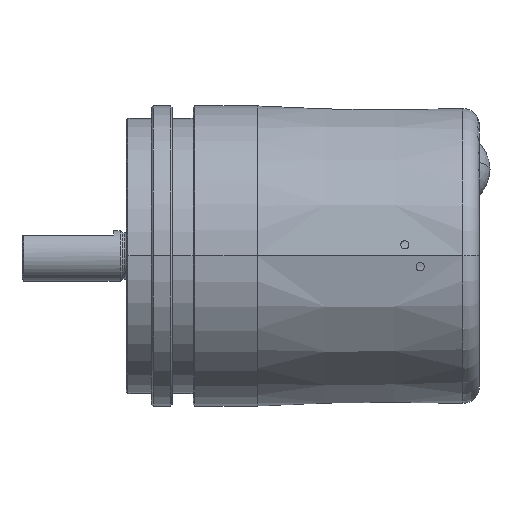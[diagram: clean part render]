
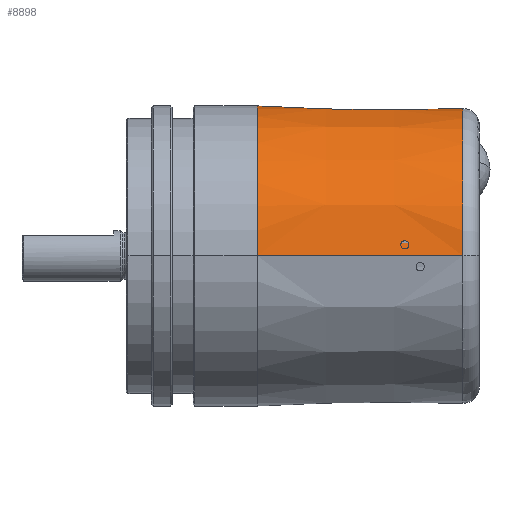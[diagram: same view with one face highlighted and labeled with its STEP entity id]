
A CAD part, top view. The second image highlights one B-rep face of the part: STEP entity #8898.
In plain terms, the highlighted conical face has half-angle 0.75 degrees and reference radius 18 mm.
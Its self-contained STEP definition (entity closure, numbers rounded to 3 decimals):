
#16 = EDGE_CURVE ( 'NONE', #23, #19, #6845, .T. ) ;
#19 = VERTEX_POINT ( 'NONE', #6874 ) ;
#23 = VERTEX_POINT ( 'NONE', #6872 ) ;
#4245 = VERTEX_POINT ( 'NONE', #7459 ) ;
#4248 = ORIENTED_EDGE ( 'NONE', *, *, #4253, .T. ) ;
#4250 = EDGE_CURVE ( 'NONE', #4245, #4255, #7492, .T. ) ;
#4251 = VERTEX_POINT ( 'NONE', #7493 ) ;
#4252 = ORIENTED_EDGE ( 'NONE', *, *, #4250, .F. ) ;
#4253 = EDGE_CURVE ( 'NONE', #4671, #4251, #7487, .T. ) ;
#4254 = ORIENTED_EDGE ( 'NONE', *, *, #4731, .T. ) ;
#4255 = VERTEX_POINT ( 'NONE', #7485 ) ;
#4256 = ORIENTED_EDGE ( 'NONE', *, *, #4258, .T. ) ;
#4257 = ORIENTED_EDGE ( 'NONE', *, *, #4263, .T. ) ;
#4258 = EDGE_CURVE ( 'NONE', #12710, #4678, #7480, .T. ) ;
#4263 = EDGE_CURVE ( 'NONE', #19, #4671, #7523, .T. ) ;
#4671 = VERTEX_POINT ( 'NONE', #8904 ) ;
#4673 = EDGE_CURVE ( 'NONE', #4245, #7365, #8899, .T. ) ;
#4675 = EDGE_CURVE ( 'NONE', #12710, #4676, #8951, .T. ) ;
#4676 = VERTEX_POINT ( 'NONE', #8924 ) ;
#4677 = ORIENTED_EDGE ( 'NONE', *, *, #4675, .F. ) ;
#4678 = VERTEX_POINT ( 'NONE', #8923 ) ;
#4679 = ORIENTED_EDGE ( 'NONE', *, *, #4673, .T. ) ;
#4731 = EDGE_CURVE ( 'NONE', #4251, #4676, #9076, .T. ) ;
#4732 = ORIENTED_EDGE ( 'NONE', *, *, #4736, .T. ) ;
#4733 = ORIENTED_EDGE ( 'NONE', *, *, #16, .T. ) ;
#4736 = EDGE_CURVE ( 'NONE', #4678, #4255, #9071, .T. ) ;
#6828 = CARTESIAN_POINT ( 'NONE',  ( 16.892, 1.046, -17.954 ) ) ;
#6829 = CARTESIAN_POINT ( 'NONE',  ( 17.022, 1.035, -17.953 ) ) ;
#6830 = CARTESIAN_POINT ( 'NONE',  ( 17.149, 0.999, -17.953 ) ) ;
#6831 = CARTESIAN_POINT ( 'NONE',  ( 17.381, 0.884, -17.956 ) ) ;
#6832 = CARTESIAN_POINT ( 'NONE',  ( 17.487, 0.804, -17.959 ) ) ;
#6833 = CARTESIAN_POINT ( 'NONE',  ( 17.662, 0.614, -17.964 ) ) ;
#6834 = CARTESIAN_POINT ( 'NONE',  ( 17.732, 0.501, -17.967 ) ) ;
#6835 = CARTESIAN_POINT ( 'NONE',  ( 17.825, 0.26, -17.971 ) ) ;
#6836 = CARTESIAN_POINT ( 'NONE',  ( 17.85, 0.129, -17.972 ) ) ;
#6837 = CARTESIAN_POINT ( 'NONE',  ( 17.85, 0., -17.972 ) ) ;
#6845 = B_SPLINE_CURVE_WITH_KNOTS ( 'NONE', 3,
 ( #6837, #6836, #6835, #6834, #6833, #6832, #6831, #6830, #6829, #6828 ),
 .UNSPECIFIED., .F., .F.,
 ( 4, 2, 2, 2, 4 ),
 ( 0.002, 0.002, 0.002, 0.003, 0.003 ),
 .UNSPECIFIED. ) ;
#6872 = CARTESIAN_POINT ( 'NONE',  ( 17.85, 0., -17.972 ) ) ;
#6874 = CARTESIAN_POINT ( 'NONE',  ( 16.892, 1.046, -17.954 ) ) ;
#6957 = ORIENTED_EDGE ( 'NONE', *, *, #7103, .T. ) ;
#7103 = EDGE_CURVE ( 'NONE', #7479, #23, #18414, .T. ) ;
#7365 = VERTEX_POINT ( 'NONE', #18410 ) ;
#7459 = CARTESIAN_POINT ( 'NONE',  ( 28.3, 9.398, -15.158 ) ) ;
#7476 = DIRECTION ( 'NONE',  ( -1., 0., 0. ) ) ;
#7477 = CARTESIAN_POINT ( 'NONE',  ( 40.326, 0., 0. ) ) ;
#7478 = AXIS2_PLACEMENT_3D ( 'NONE', #7477, #7476, #7524 ) ;
#7479 = VERTEX_POINT ( 'NONE', #18393 ) ;
#7480 = CIRCLE ( 'NONE', #7478, 17.678 ) ;
#7481 = CARTESIAN_POINT ( 'NONE',  ( 15.7, 1.65, -17.924 ) ) ;
#7482 = CARTESIAN_POINT ( 'NONE',  ( 15.882, 1.468, -17.939 ) ) ;
#7483 = CARTESIAN_POINT ( 'NONE',  ( 16.065, 1.285, -17.95 ) ) ;
#7484 = CARTESIAN_POINT ( 'NONE',  ( 16.248, 1.102, -17.959 ) ) ;
#7485 = CARTESIAN_POINT ( 'NONE',  ( 40.3, 9.486, -14.917 ) ) ;
#7487 =( BOUNDED_CURVE ( )  B_SPLINE_CURVE ( 3, ( #7484, #7483, #7482, #7481 ),
 .UNSPECIFIED., .F., .F. ) 
 B_SPLINE_CURVE_WITH_KNOTS ( ( 4, 4 ),
 ( 4.761, 4.791 ),
 .UNSPECIFIED. ) 
 CURVE ( )  GEOMETRIC_REPRESENTATION_ITEM ( )  RATIONAL_B_SPLINE_CURVE ( ( 1., 1., 1., 1. ) ) 
 REPRESENTATION_ITEM ( '' )  );
#7488 = CARTESIAN_POINT ( 'NONE',  ( 40.3, 9.486, -14.917 ) ) ;
#7489 = CARTESIAN_POINT ( 'NONE',  ( 36.3, 9.457, -14.998 ) ) ;
#7490 = CARTESIAN_POINT ( 'NONE',  ( 32.3, 9.427, -15.078 ) ) ;
#7491 = CARTESIAN_POINT ( 'NONE',  ( 28.3, 9.398, -15.158 ) ) ;
#7492 = B_SPLINE_CURVE_WITH_KNOTS ( 'NONE', 3,
 ( #7491, #7490, #7489, #7488 ),
 .UNSPECIFIED., .F., .F.,
 ( 4, 4 ),
 ( 0.002, 0.014 ),
 .UNSPECIFIED. ) ;
#7493 = CARTESIAN_POINT ( 'NONE',  ( 15.7, 1.65, -17.924 ) ) ;
#7519 = CARTESIAN_POINT ( 'NONE',  ( 16.248, 1.102, -17.959 ) ) ;
#7520 = CARTESIAN_POINT ( 'NONE',  ( 16.462, 1.084, -17.957 ) ) ;
#7521 = CARTESIAN_POINT ( 'NONE',  ( 16.677, 1.065, -17.956 ) ) ;
#7522 = CARTESIAN_POINT ( 'NONE',  ( 16.892, 1.046, -17.954 ) ) ;
#7523 =( BOUNDED_CURVE ( )  B_SPLINE_CURVE ( 3, ( #7522, #7521, #7520, #7519 ),
 .UNSPECIFIED., .F., .T. ) 
 B_SPLINE_CURVE_WITH_KNOTS ( ( 4, 4 ),
 ( 4.62, 4.623 ),
 .UNSPECIFIED. ) 
 CURVE ( )  GEOMETRIC_REPRESENTATION_ITEM ( )  RATIONAL_B_SPLINE_CURVE ( ( 1., 1., 1., 1. ) ) 
 REPRESENTATION_ITEM ( '' )  );
#7524 = DIRECTION ( 'NONE',  ( 0., 0., -1. ) ) ;
#8762 = EDGE_CURVE ( 'NONE', #7479, #7365, #18416, .T. ) ;
#8777 = ORIENTED_EDGE ( 'NONE', *, *, #8762, .F. ) ;
#8858 = EDGE_LOOP ( 'NONE', ( #8777, #6957, #4733, #4257, #4248, #4254, #4677, #4256, #4732, #4252, #4679 ) ) ;
#8898 = ADVANCED_FACE ( 'NONE', ( #18464 ), #18491, .T. ) ;
#8899 = B_SPLINE_CURVE_WITH_KNOTS ( 'NONE', 3,
 ( #8949, #8948, #8947, #8946, #8945, #8944, #8943, #8942, #8941, #8940, #8939, #8938 ),
 .UNSPECIFIED., .F., .F.,
 ( 4, 2, 2, 2, 2, 4 ),
 ( 0., 0., 0.001, 0.002, 0.003, 0.004 ),
 .UNSPECIFIED. ) ;
#8904 = CARTESIAN_POINT ( 'NONE',  ( 16.248, 1.102, -17.959 ) ) ;
#8923 = CARTESIAN_POINT ( 'NONE',  ( 40.326, 9.486, -14.917 ) ) ;
#8924 = CARTESIAN_POINT ( 'NONE',  ( 15.7, 0., 18. ) ) ;
#8935 = DIRECTION ( 'NONE',  ( -1., 0., 0.013 ) ) ;
#8936 = VECTOR ( 'NONE', #8935, 1000. ) ;
#8937 = CARTESIAN_POINT ( 'NONE',  ( 15.7, 0., 18. ) ) ;
#8938 = CARTESIAN_POINT ( 'NONE',  ( 26.3, 6.771, -16.528 ) ) ;
#8939 = CARTESIAN_POINT ( 'NONE',  ( 26.3, 7.074, -16.404 ) ) ;
#8940 = CARTESIAN_POINT ( 'NONE',  ( 26.343, 7.37, -16.272 ) ) ;
#8941 = CARTESIAN_POINT ( 'NONE',  ( 26.507, 7.94, -16. ) ) ;
#8942 = CARTESIAN_POINT ( 'NONE',  ( 26.625, 8.207, -15.862 ) ) ;
#8943 = CARTESIAN_POINT ( 'NONE',  ( 26.948, 8.703, -15.59 ) ) ;
#8944 = CARTESIAN_POINT ( 'NONE',  ( 27.15, 8.928, -15.458 ) ) ;
#8945 = CARTESIAN_POINT ( 'NONE',  ( 27.533, 9.191, -15.296 ) ) ;
#8946 = CARTESIAN_POINT ( 'NONE',  ( 27.672, 9.264, -15.25 ) ) ;
#8947 = CARTESIAN_POINT ( 'NONE',  ( 27.977, 9.368, -15.181 ) ) ;
#8948 = CARTESIAN_POINT ( 'NONE',  ( 28.135, 9.397, -15.161 ) ) ;
#8949 = CARTESIAN_POINT ( 'NONE',  ( 28.3, 9.398, -15.158 ) ) ;
#8951 = LINE ( 'NONE', #8937, #8936 ) ;
#9067 = CARTESIAN_POINT ( 'NONE',  ( 40.3, 9.486, -14.917 ) ) ;
#9068 = CARTESIAN_POINT ( 'NONE',  ( 40.309, 9.486, -14.917 ) ) ;
#9069 = CARTESIAN_POINT ( 'NONE',  ( 40.317, 9.486, -14.917 ) ) ;
#9070 = CARTESIAN_POINT ( 'NONE',  ( 40.326, 9.486, -14.917 ) ) ;
#9071 = B_SPLINE_CURVE_WITH_KNOTS ( 'NONE', 3,
 ( #9070, #9069, #9068, #9067 ),
 .UNSPECIFIED., .F., .F.,
 ( 4, 4 ),
 ( 0.004, 0.004 ),
 .UNSPECIFIED. ) ;
#9072 = DIRECTION ( 'NONE',  ( 0., 0., -1. ) ) ;
#9073 = DIRECTION ( 'NONE',  ( 1., 0., 0. ) ) ;
#9074 = CARTESIAN_POINT ( 'NONE',  ( 15.7, 0., 0. ) ) ;
#9075 = AXIS2_PLACEMENT_3D ( 'NONE', #9074, #9073, #9072 ) ;
#9076 = CIRCLE ( 'NONE', #9075, 18. ) ;
#12710 = VERTEX_POINT ( 'NONE', #19075 ) ;
#18393 = CARTESIAN_POINT ( 'NONE',  ( 26.3, 0., -17.861 ) ) ;
#18410 = CARTESIAN_POINT ( 'NONE',  ( 26.3, 6.771, -16.528 ) ) ;
#18411 = DIRECTION ( 'NONE',  ( -1., 0., -0.013 ) ) ;
#18412 = VECTOR ( 'NONE', #18411, 1000. ) ;
#18413 = CARTESIAN_POINT ( 'NONE',  ( 15.7, 0., -18. ) ) ;
#18414 = LINE ( 'NONE', #18413, #18412 ) ;
#18416 = CIRCLE ( 'NONE', #18484, 17.861 ) ;
#18423 = CARTESIAN_POINT ( 'NONE',  ( 26.3, 0., 0. ) ) ;
#18464 = FACE_OUTER_BOUND ( 'NONE', #8858, .T. ) ;
#18482 = DIRECTION ( 'NONE',  ( 0., 0., 1. ) ) ;
#18483 = DIRECTION ( 'NONE',  ( 1., 0., 0. ) ) ;
#18484 = AXIS2_PLACEMENT_3D ( 'NONE', #18423, #18483, #18482 ) ;
#18488 = DIRECTION ( 'NONE',  ( 0., 0., 1. ) ) ;
#18489 = DIRECTION ( 'NONE',  ( -1., 0., 0. ) ) ;
#18490 = AXIS2_PLACEMENT_3D ( 'NONE', #18492, #18489, #18488 ) ;
#18491 = CONICAL_SURFACE ( 'NONE', #18490, 18., 0.013 ) ;
#18492 = CARTESIAN_POINT ( 'NONE',  ( 15.7, 0., 0. ) ) ;
#19075 = CARTESIAN_POINT ( 'NONE',  ( 40.326, 0., 17.678 ) ) ;
